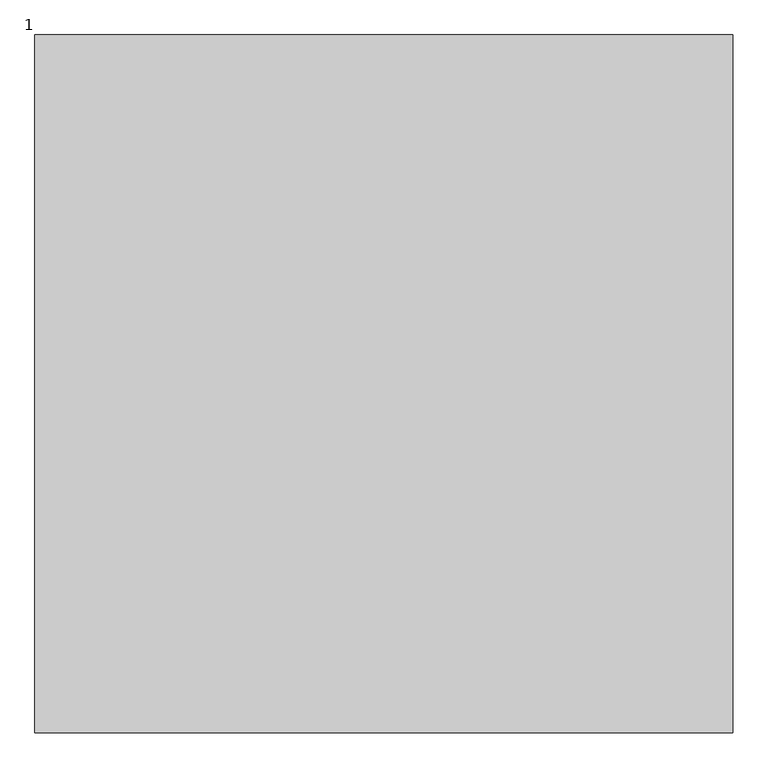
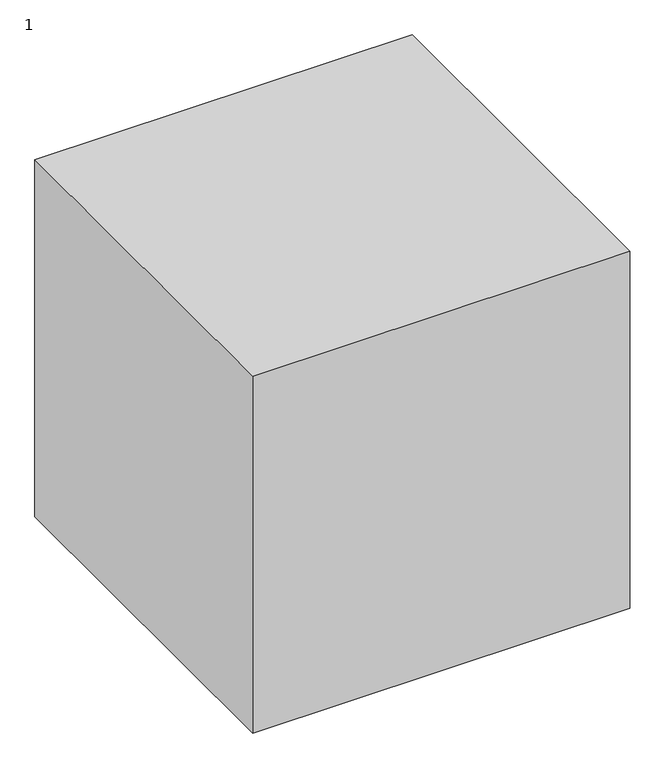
"""IFC4 building model written with IfcOpenShell, lengths in millimetres: proxy geometry, 122211211 : 1."""

from ifc_helpers import new_model, si_unit, origin, origin_with_axes, place, context, project, spatial, polyline, outline, extrude, source, transform, mapped, element, save


def proxy_1_f2e2dbd0(model_context):
    return source(origin(), model_context, "Body", "SweptSolid", [
        extrude(outline(polyline([(-2307.9756708, -664.7705528), (-2307.9756708, -1664.7705528), (-3307.9756708, -1664.7705528), (-3307.9756708, -664.7705528), (-2307.9756708, -664.7705528)])), origin_with_axes(), (0.0, 0.0, 1.0), 1000.0),
    ])


if __name__ == "__main__":
    model = new_model("IFC4")
    model_context = context("Model", 3, world=origin())
    ifc_project = project(units=[si_unit("LENGTHUNIT", "METRE", prefix="MILLI")], contexts=[model_context])
    site = spatial("IfcSite", under=ifc_project)
    building = spatial("IfcBuilding", under=site)
    placement = place(None, origin())
    proxy_1_shape = proxy_1_f2e2dbd0(model_context)
    element("IfcBuildingElementProxy", 1, Name="122211211 : 1", ObjectType="122211211 : 1", at=placement, inside=building, context=model_context, shape_type="MappedRepresentation", body=[
        mapped(proxy_1_shape, transform((0.0, 0.0, 0.0), x_axis=(1.0, 0.0, 0.0), y_axis=(0.0, 1.0, 0.0), z_axis=(0.0, 0.0, 1.0))),
    ])
    save(model, "model.ifc")
